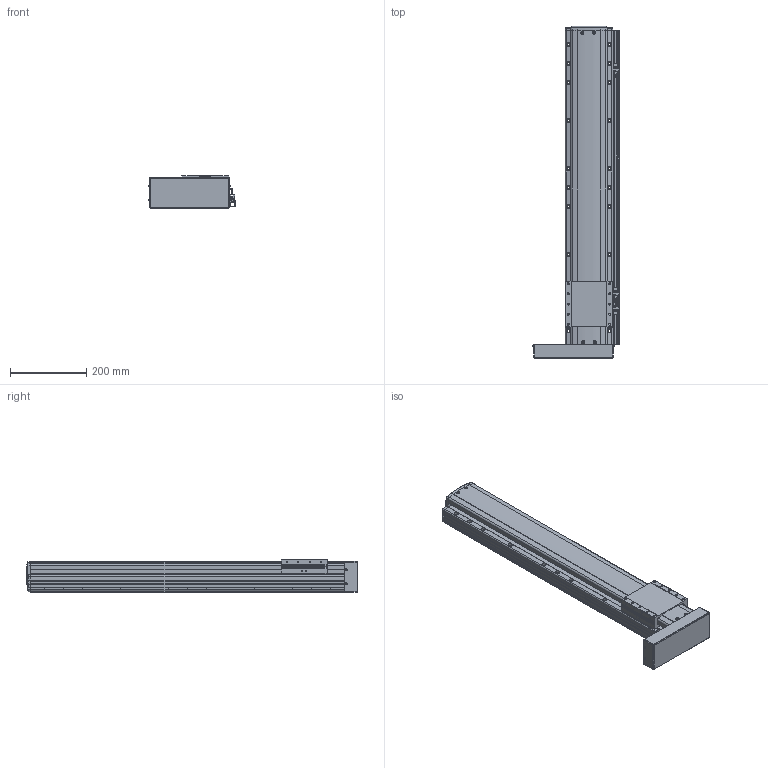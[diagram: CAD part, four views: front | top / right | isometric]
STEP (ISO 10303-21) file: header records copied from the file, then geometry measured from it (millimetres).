
FILE_DESCRIPTION(('STEP AP214'),'1');
FILE_NAME('Z:/Web/3D/PSA125/STP/PSA125-600 (3D)/PSA125ㅁㅁ-600PL+3SR.stp','2014-06-23T03:40:49',(' '),(' '),'Spatial InterOp 3D',' ',' ');
FILE_SCHEMA(('automotive_design'));
Length unit declared in the file: millimetre
Products named in the file (41): 스크루 : Round - M4.0 x 10.0; RRCV-PA120; SLIDE; BASE; FRCV-PA120-1(기준 뿔 제거); RR1500; 스크루 : Round - M4.0 x 6.0; 너트 : Square - M10.0 x 220.7419; BTCV - 60A; 스크루 : Round - M3.0 x 6.0; EE-SX674; SBK-SX674-352; M3.0 x 6.0; SRL-16x17-380L; SGD-PA95; 스크루 : Round - M3.0 x 8.0
Bounding box: 225.06 x 868.6 x 86 mm (x, y, z)
Volume: 7681716.7 mm3; surface area: 730123.3 mm2
Topology: 41 solids, 41 shells, 2475 faces, 6593 edges, 4226 vertices
Faces by surface type: plane 1411, cylinder 700, cone 244, sphere 64, bspline 31, torus 25
Entity records: 98868 total; most frequent: CARTESIAN_POINT 16051, DIRECTION 13177, ORIENTED_EDGE 12910, EDGE_CURVE 6455, AXIS2_PLACEMENT_3D 4413, LINE 4351, VECTOR 4351, VERTEX_POINT 4226
